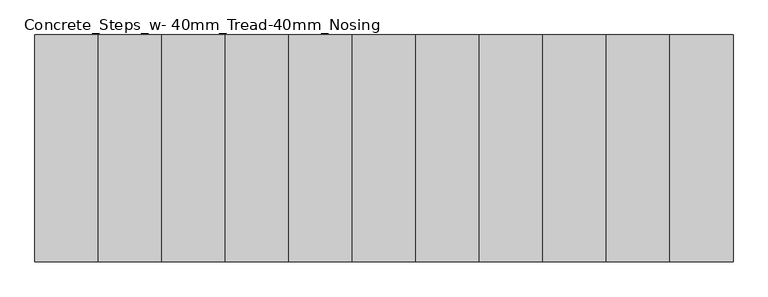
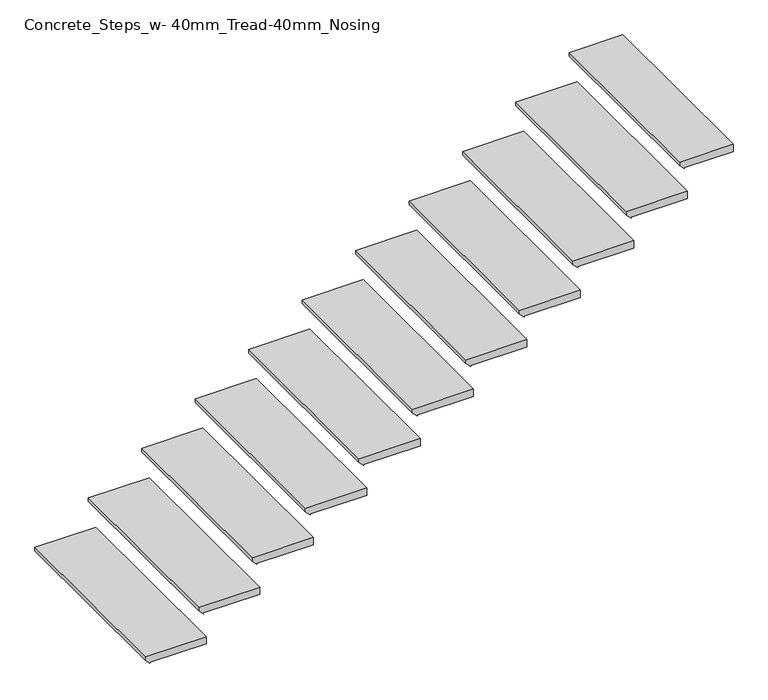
"""IFC4 building model written with IfcOpenShell, lengths in millimetres: stair flight geometry, Concrete_Steps_w- 40mm_Tread-40mm_Nosing."""

from ifc_helpers import new_model, si_unit, frame, origin, place, context, project, spatial, polyline, outline, extrude, source, transform, mapped, element, save


def concrete_steps_w_40mm_tread_40mm_nosing_36d92289(model_context):
    return source(origin(), model_context, "Body", "SweptSolid", [
        extrude(outline(polyline([(3926.1904762, 35605.7942367), (3926.1904762, 35285.7942367), (3907.1404762, 35285.7942367), (3881.7404762, 35311.1942367), (3886.1904762, 35311.1942367), (3886.1904762, 35605.7942367), (3926.1904762, 35605.7942367)])), frame((0.0, -998.1974508, 0.0), z_axis=(0.0, 1.0, 0.0), x_axis=(0.0, 0.0, 1.0)), (0.0, 0.0, 1.0), 1000.0),
        extrude(outline(polyline([(4102.3809524, 35885.7942367), (4102.3809524, 35565.7942367), (4083.3309524, 35565.7942367), (4057.9309524, 35591.1942367), (4062.3809524, 35591.1942367), (4062.3809524, 35885.7942367), (4102.3809524, 35885.7942367)])), frame((0.0, -998.1974508, 0.0), z_axis=(0.0, 1.0, 0.0), x_axis=(0.0, 0.0, 1.0)), (0.0, 0.0, 1.0), 1000.0),
        extrude(outline(polyline([(4278.5714286, 36165.7942367), (4278.5714286, 35845.7942367), (4259.5214286, 35845.7942367), (4234.1214286, 35871.1942367), (4238.5714286, 35871.1942367), (4238.5714286, 36165.7942367), (4278.5714286, 36165.7942367)])), frame((0.0, -998.1974508, 0.0), z_axis=(0.0, 1.0, 0.0), x_axis=(0.0, 0.0, 1.0)), (0.0, 0.0, 1.0), 1000.0),
        extrude(outline(polyline([(4454.7619048, 36445.7942367), (4454.7619048, 36125.7942367), (4435.7119048, 36125.7942367), (4410.3119048, 36151.1942367), (4414.7619048, 36151.1942367), (4414.7619048, 36445.7942367), (4454.7619048, 36445.7942367)])), frame((0.0, -998.1974508, 0.0), z_axis=(0.0, 1.0, 0.0), x_axis=(0.0, 0.0, 1.0)), (0.0, 0.0, 1.0), 1000.0),
        extrude(outline(polyline([(4630.952381, 36725.7942367), (4630.952381, 36405.7942367), (4611.902381, 36405.7942367), (4586.502381, 36431.1942367), (4590.952381, 36431.1942367), (4590.952381, 36725.7942367), (4630.952381, 36725.7942367)])), frame((0.0, -998.1974508, 0.0), z_axis=(0.0, 1.0, 0.0), x_axis=(0.0, 0.0, 1.0)), (0.0, 0.0, 1.0), 1000.0),
        extrude(outline(polyline([(4807.1428571, 37005.7942367), (4807.1428571, 36685.7942367), (4788.0928571, 36685.7942367), (4762.6928571, 36711.1942367), (4767.1428571, 36711.1942367), (4767.1428571, 37005.7942367), (4807.1428571, 37005.7942367)])), frame((0.0, -998.1974508, 0.0), z_axis=(0.0, 1.0, 0.0), x_axis=(0.0, 0.0, 1.0)), (0.0, 0.0, 1.0), 1000.0),
        extrude(outline(polyline([(4983.3333333, 37285.7942367), (4983.3333333, 36965.7942367), (4964.2833333, 36965.7942367), (4938.8833333, 36991.1942367), (4943.3333333, 36991.1942367), (4943.3333333, 37285.7942367), (4983.3333333, 37285.7942367)])), frame((0.0, -998.1974508, 0.0), z_axis=(0.0, 1.0, 0.0), x_axis=(0.0, 0.0, 1.0)), (0.0, 0.0, 1.0), 1000.0),
        extrude(outline(polyline([(5159.5238095, 37565.7942367), (5159.5238095, 37245.7942367), (5140.4738095, 37245.7942367), (5115.0738095, 37271.1942367), (5119.5238095, 37271.1942367), (5119.5238095, 37565.7942367), (5159.5238095, 37565.7942367)])), frame((0.0, -998.1974508, 0.0), z_axis=(0.0, 1.0, 0.0), x_axis=(0.0, 0.0, 1.0)), (0.0, 0.0, 1.0), 1000.0),
        extrude(outline(polyline([(5335.7142857, 37845.7942367), (5335.7142857, 37525.7942367), (5316.6642857, 37525.7942367), (5291.2642857, 37551.1942367), (5295.7142857, 37551.1942367), (5295.7142857, 37845.7942367), (5335.7142857, 37845.7942367)])), frame((0.0, -998.1974508, 0.0), z_axis=(0.0, 1.0, 0.0), x_axis=(0.0, 0.0, 1.0)), (0.0, 0.0, 1.0), 1000.0),
        extrude(outline(polyline([(5511.9047619, 38125.7942367), (5511.9047619, 37805.7942367), (5492.8547619, 37805.7942367), (5467.4547619, 37831.1942367), (5471.9047619, 37831.1942367), (5471.9047619, 38125.7942367), (5511.9047619, 38125.7942367)])), frame((0.0, -998.1974508, 0.0), z_axis=(0.0, 1.0, 0.0), x_axis=(0.0, 0.0, 1.0)), (0.0, 0.0, 1.0), 1000.0),
        extrude(outline(polyline([(5688.0952381, 38365.7942367), (5688.0952381, 38085.7942367), (5669.0452381, 38085.7942367), (5643.6452381, 38111.1942367), (5648.0952381, 38111.1942367), (5648.0952381, 38365.7942367), (5688.0952381, 38365.7942367)])), frame((0.0, -998.1974508, 0.0), z_axis=(0.0, 1.0, 0.0), x_axis=(0.0, 0.0, 1.0)), (0.0, 0.0, 1.0), 1000.0),
    ])


if __name__ == "__main__":
    model = new_model("IFC4")
    model_context = context("Model", 3, world=origin())
    ifc_project = project(units=[si_unit("LENGTHUNIT", "METRE", prefix="MILLI")], contexts=[model_context])
    site = spatial("IfcSite", under=ifc_project)
    building = spatial("IfcBuilding", under=site)
    placement = place(None, origin())
    concrete_steps_w_40mm_tread_40mm_nosing_shape = concrete_steps_w_40mm_tread_40mm_nosing_36d92289(model_context)
    element("IfcStairFlight", 1, ObjectType="Concrete_Steps_w- 40mm_Tread-40mm_Nosing", at=placement, inside=building, context=model_context, shape_type="MappedRepresentation", body=[
        mapped(concrete_steps_w_40mm_tread_40mm_nosing_shape, transform((0.0, 0.0, 0.0), x_axis=(1.0, 0.0, 0.0), y_axis=(0.0, 1.0, 0.0), z_axis=(0.0, 0.0, 1.0))),
    ])
    save(model, "model.ifc")
